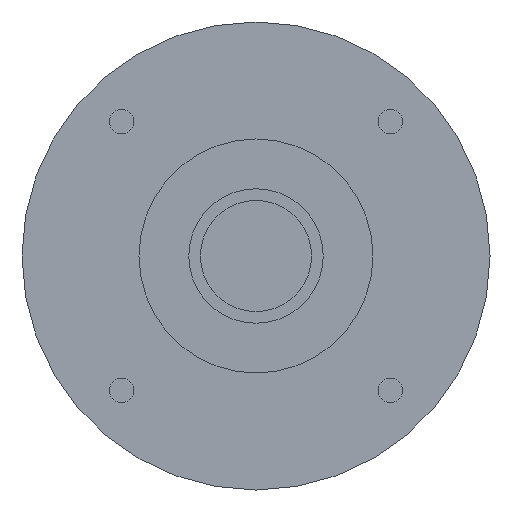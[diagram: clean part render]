
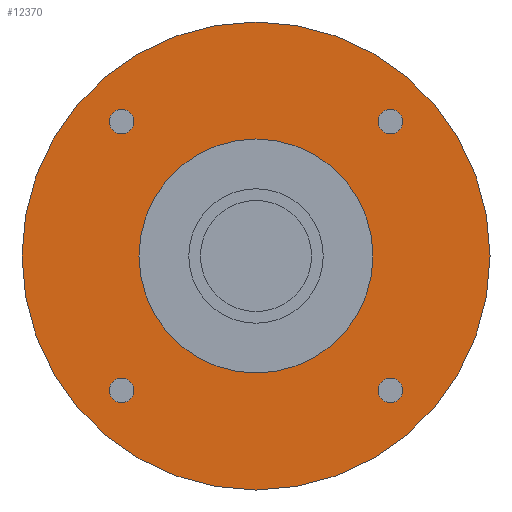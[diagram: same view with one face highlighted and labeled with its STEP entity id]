
A CAD part, left-side view. The second image highlights one B-rep face of the part: STEP entity #12370.
In plain terms, the highlighted planar face has unit normal (-1, 0, 0) as drawn and (0, 0, -1) by its records, which use the part's own axes.
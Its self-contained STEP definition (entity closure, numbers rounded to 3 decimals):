
#8640=CARTESIAN_POINT('',(-25.081,-22.981,-42.2));
#8650=VERTEX_POINT('',#8640);
#8830=CARTESIAN_POINT('',(-20.881,-22.981,-42.2));
#8840=VERTEX_POINT('',#8830);
#8870=CARTESIAN_POINT('',(-22.981,-22.981,-42.2));
#8880=DIRECTION('',(0.,0.,-1.));
#8890=DIRECTION('',(1.,0.,0.));
#8900=AXIS2_PLACEMENT_3D('',#8870,#8880,#8890);
#8910=CIRCLE('',#8900,2.1);
#8920=EDGE_CURVE('',#8650,#8840,#8910,.T.);
#9060=CARTESIAN_POINT('',(-20.,0.,-42.2));
#9070=VERTEX_POINT('',#9060);
#9250=CARTESIAN_POINT('',(20.,0.,-42.2));
#9260=VERTEX_POINT('',#9250);
#9290=CARTESIAN_POINT('',(0.,0.,
-42.2));
#9300=DIRECTION('',(0.,0.,1.));
#9310=DIRECTION('',(-1.,0.,0.));
#9320=AXIS2_PLACEMENT_3D('',#9290,#9300,#9310);
#9330=CIRCLE('',#9320,20.);
#9340=EDGE_CURVE('',#9260,#9070,#9330,.T.);
#11490=CARTESIAN_POINT('',(-40.,0.,-42.2));
#11500=VERTEX_POINT('',#11490);
#11530=CARTESIAN_POINT('',(0.,0.,
-42.2));
#11540=DIRECTION('',(0.,0.,-1.));
#11550=DIRECTION('',(1.,0.,0.));
#11560=AXIS2_PLACEMENT_3D('',#11530,#11540,#11550);
#11570=CIRCLE('',#11560,40.);
#11580=CARTESIAN_POINT('',(40.,0.,-42.2));
#11590=VERTEX_POINT('',#11580);
#11600=EDGE_CURVE('',#11500,#11590,#11570,.T.);
#11720=CARTESIAN_POINT('',(0.,0.,
-42.2));
#11730=DIRECTION('',(0.,0.,1.));
#11740=DIRECTION('',(1.,0.,0.));
#11750=AXIS2_PLACEMENT_3D('',#11720,#11730,#11740);
#11760=PLANE('',#11750);
#11770=CARTESIAN_POINT('',(-22.981,22.981,-42.2));
#11780=DIRECTION('',(0.,0.,-1.));
#11790=DIRECTION('',(1.,0.,0.));
#11800=AXIS2_PLACEMENT_3D('',#11770,#11780,#11790);
#11810=CIRCLE('',#11800,2.1);
#11820=CARTESIAN_POINT('',(-20.881,22.981,-42.2));
#11830=VERTEX_POINT('',#11820);
#11840=CARTESIAN_POINT('',(-25.081,22.981,-42.2));
#11850=VERTEX_POINT('',#11840);
#11860=EDGE_CURVE('',#11830,#11850,#11810,.T.);
#11870=ORIENTED_EDGE('',*,*,#11860,.F.);
#11880=EDGE_CURVE('',#11850,#11830,#11810,.T.);
#11890=ORIENTED_EDGE('',*,*,#11880,.F.);
#11900=EDGE_LOOP('',(#11890,#11870));
#11910=FACE_BOUND('',#11900,.T.);
#11920=CARTESIAN_POINT('',(22.981,22.981,-42.2));
#11930=DIRECTION('',(0.,0.,-1.));
#11940=DIRECTION('',(1.,0.,0.));
#11950=AXIS2_PLACEMENT_3D('',#11920,#11930,#11940);
#11960=CIRCLE('',#11950,2.1);
#11970=CARTESIAN_POINT('',(25.081,22.981,-42.2));
#11980=VERTEX_POINT('',#11970);
#11990=CARTESIAN_POINT('',(20.881,22.981,-42.2));
#12000=VERTEX_POINT('',#11990);
#12010=EDGE_CURVE('',#11980,#12000,#11960,.T.);
#12020=ORIENTED_EDGE('',*,*,#12010,.F.);
#12030=EDGE_CURVE('',#12000,#11980,#11960,.T.);
#12040=ORIENTED_EDGE('',*,*,#12030,.F.);
#12050=EDGE_LOOP('',(#12040,#12020));
#12060=FACE_BOUND('',#12050,.T.);
#12070=CARTESIAN_POINT('',(22.981,-22.981,-42.2));
#12080=DIRECTION('',(0.,0.,-1.));
#12090=DIRECTION('',(1.,0.,0.));
#12100=AXIS2_PLACEMENT_3D('',#12070,#12080,#12090);
#12110=CIRCLE('',#12100,2.1);
#12120=CARTESIAN_POINT('',(25.081,-22.981,-42.2));
#12130=VERTEX_POINT('',#12120);
#12140=CARTESIAN_POINT('',(20.881,-22.981,-42.2));
#12150=VERTEX_POINT('',#12140);
#12160=EDGE_CURVE('',#12130,#12150,#12110,.T.);
#12170=ORIENTED_EDGE('',*,*,#12160,.F.);
#12180=EDGE_CURVE('',#12150,#12130,#12110,.T.);
#12190=ORIENTED_EDGE('',*,*,#12180,.F.);
#12200=EDGE_LOOP('',(#12190,#12170));
#12210=FACE_BOUND('',#12200,.T.);
#12220=EDGE_CURVE('',#9070,#9260,#9330,.T.);
#12230=ORIENTED_EDGE('',*,*,#12220,.T.);
#12240=ORIENTED_EDGE('',*,*,#9340,.T.);
#12250=EDGE_LOOP('',(#12240,#12230));
#12260=FACE_BOUND('',#12250,.T.);
#12270=EDGE_CURVE('',#8840,#8650,#8910,.T.);
#12280=ORIENTED_EDGE('',*,*,#12270,.F.);
#12290=ORIENTED_EDGE('',*,*,#8920,.F.);
#12300=EDGE_LOOP('',(#12290,#12280));
#12310=FACE_BOUND('',#12300,.T.);
#12320=EDGE_CURVE('',#11590,#11500,#11570,.T.);
#12330=ORIENTED_EDGE('',*,*,#12320,.T.);
#12340=ORIENTED_EDGE('',*,*,#11600,.T.);
#12350=EDGE_LOOP('',(#12340,#12330));
#12360=FACE_OUTER_BOUND('',#12350,.T.);
#12370=ADVANCED_FACE('',(#11910,#12060,#12210,#12260,#12310,#12360),
#11760,.F.);
